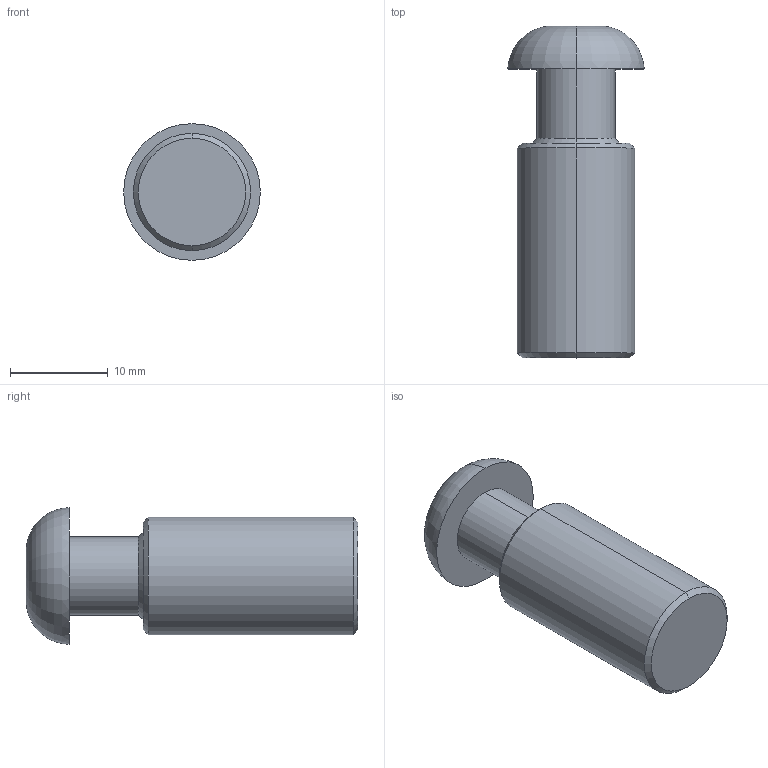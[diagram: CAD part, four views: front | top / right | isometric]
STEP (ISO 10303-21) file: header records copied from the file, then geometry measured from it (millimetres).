
FILE_DESCRIPTION (( 'STEP AP203' ), '1' );
FILE_NAME ('TCCJ 12x25 M12 Klemverbinding Bolkop (01-06-2021).STEP', '2021-06-01T06:07:49', ( '' ), ( '' ), 'SwSTEP 2.0', 'SolidWorks 2020', '' );
FILE_SCHEMA (( 'CONFIG_CONTROL_DESIGN' ));
Length unit declared in the file: millimetre
Products named in the file (1): TCCJ 12x25  M12 Klemverbinding Bolkop (01-06-2021)
Bounding box: 14 x 34 x 14 mm (x, y, z)
Volume: 3316.2 mm3; surface area: 1569.9 mm2
Topology: 1 solids, 1 shells, 23 faces, 54 edges, 33 vertices
Faces by surface type: plane 9, cone 8, cylinder 4, torus 2
Entity records: 757 total; most frequent: CARTESIAN_POINT 177, ORIENTED_EDGE 104, DIRECTION 102, EDGE_CURVE 52, AXIS2_PLACEMENT_3D 42, VERTEX_POINT 33, EDGE_LOOP 25, FACE_OUTER_BOUND 23
